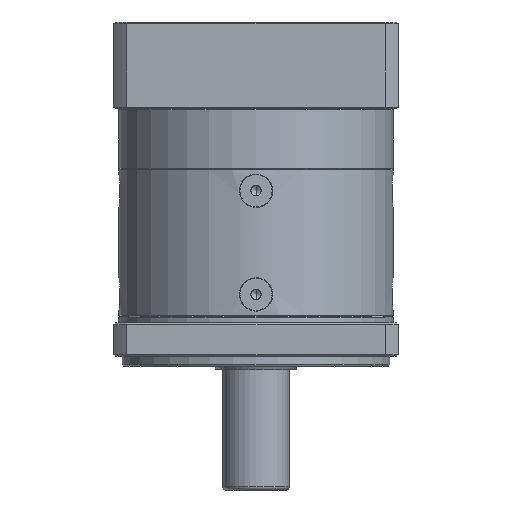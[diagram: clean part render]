
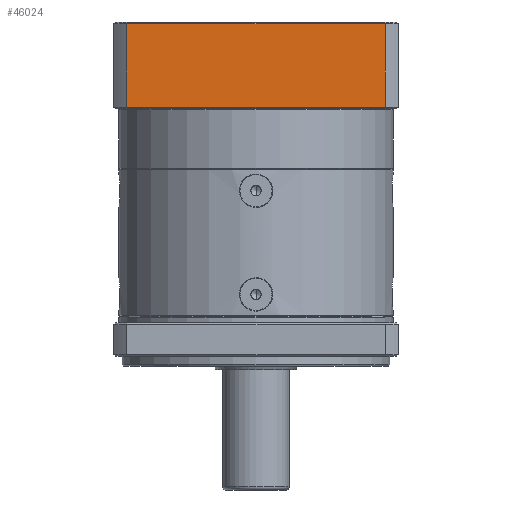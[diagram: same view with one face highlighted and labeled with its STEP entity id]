
A CAD part, front view. The second image highlights one B-rep face of the part: STEP entity #46024.
In plain terms, the highlighted planar face has unit normal (0, -1, 0).
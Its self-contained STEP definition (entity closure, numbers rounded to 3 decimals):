
#8667 = VERTEX_POINT ( 'NONE', #86727 ) ;
#17347 = CARTESIAN_POINT ( 'NONE',  ( -30.665, -10.575, 29.772 ) ) ;
#20554 = CARTESIAN_POINT ( 'NONE',  ( -30.665, -10.575, 29.772 ) ) ;
#22543 = DIRECTION ( 'NONE',  ( 0., 0., 1. ) ) ;
#25598 = ORIENTED_EDGE ( 'NONE', *, *, #70000, .T. ) ;
#26046 = EDGE_LOOP ( 'NONE', ( #25598, #98584, #53683, #120722 ) ) ;
#30009 = EDGE_CURVE ( 'NONE', #8667, #61938, #74419, .T. ) ;
#30594 = VECTOR ( 'NONE', #128092, 1000. ) ;
#32182 = LINE ( 'NONE', #58283, #30594 ) ;
#36549 = DIRECTION ( 'NONE',  ( 0., 0., -1. ) ) ;
#46024 = ADVANCED_FACE ( 'NONE', ( #100717 ), #129177, .F. ) ;
#47628 = VECTOR ( 'NONE', #36549, 1000. ) ;
#48285 = AXIS2_PLACEMENT_3D ( 'NONE', #20554, #79473, #99590 ) ;
#53683 = ORIENTED_EDGE ( 'NONE', *, *, #113750, .F. ) ;
#57941 = CARTESIAN_POINT ( 'NONE',  ( -30.665, -10.575, 4.272 ) ) ;
#58283 = CARTESIAN_POINT ( 'NONE',  ( -30.665, -10.575, 29.272 ) ) ;
#61938 = VERTEX_POINT ( 'NONE', #105592 ) ;
#64236 = VERTEX_POINT ( 'NONE', #114894 ) ;
#65329 = LINE ( 'NONE', #57941, #129190 ) ;
#65769 = EDGE_CURVE ( 'NONE', #64236, #128099, #128746, .T. ) ;
#68006 = DIRECTION ( 'NONE',  ( 1., 0., 0. ) ) ;
#70000 = EDGE_CURVE ( 'NONE', #8667, #128099, #65329, .T. ) ;
#74419 = LINE ( 'NONE', #93206, #125934 ) ;
#79473 = DIRECTION ( 'NONE',  ( 0., 1., 0. ) ) ;
#86727 = CARTESIAN_POINT ( 'NONE',  ( -108.125, -10.575, 4.272 ) ) ;
#93206 = CARTESIAN_POINT ( 'NONE',  ( -108.125, -10.575, 29.772 ) ) ;
#98584 = ORIENTED_EDGE ( 'NONE', *, *, #65769, .F. ) ;
#99590 = DIRECTION ( 'NONE',  ( -1., 0., 0. ) ) ;
#100717 = FACE_OUTER_BOUND ( 'NONE', #26046, .T. ) ;
#105592 = CARTESIAN_POINT ( 'NONE',  ( -108.125, -10.575, 29.272 ) ) ;
#112412 = CARTESIAN_POINT ( 'NONE',  ( -30.665, -10.575, 4.272 ) ) ;
#113750 = EDGE_CURVE ( 'NONE', #61938, #64236, #32182, .T. ) ;
#114894 = CARTESIAN_POINT ( 'NONE',  ( -30.665, -10.575, 29.272 ) ) ;
#120722 = ORIENTED_EDGE ( 'NONE', *, *, #30009, .F. ) ;
#125934 = VECTOR ( 'NONE', #22543, 1000. ) ;
#128092 = DIRECTION ( 'NONE',  ( 1., 0., 0. ) ) ;
#128099 = VERTEX_POINT ( 'NONE', #112412 ) ;
#128746 = LINE ( 'NONE', #17347, #47628 ) ;
#129177 = PLANE ( 'NONE',  #48285 ) ;
#129190 = VECTOR ( 'NONE', #68006, 1000. ) ;
